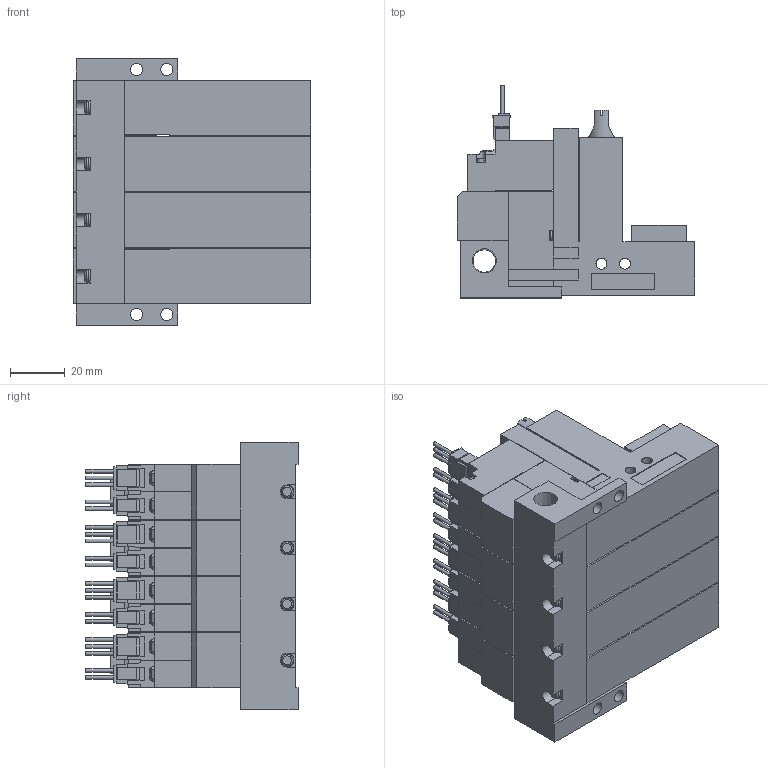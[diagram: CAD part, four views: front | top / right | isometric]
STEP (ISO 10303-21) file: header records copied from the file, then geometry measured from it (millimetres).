
FILE_DESCRIPTION(('STEP AP203'),'1');
FILE_NAME('ZL5WLR404.stp','2025-02-18T23:29:12',(' '),(' '),'Spatial InterOp 3D',' ',' ');
FILE_SCHEMA(('CONFIG_CONTROL_DESIGN'));
Length unit declared in the file: millimetre
Products named in the file (5): BMC22M※※※※ZL5WLR404; Solenoid valve W; Pressure sensor ZL; Unit L; Base MR40R
Assembly tree (13 placements, depth 2):
  BMC22M※※※※ZL5WLR404
    Solenoid valve W  x4
    Pressure sensor ZL  x4
    Unit L  x4
    Base MR40R
Bounding box: 86.6 x 77.45 x 97.5 mm (x, y, z)
Volume: 312448.7 mm3; surface area: 89486.4 mm2
Topology: 13 solids, 13 shells, 1329 faces, 3611 edges, 2384 vertices
Faces by surface type: plane 1142, cylinder 145, cone 30, torus 12
Full cylindrical faces by diameter (mm): 1.4 x20, 2.5 x4, 3 x16, 3.5 x16, 3.6 x4, 4 x8, 4.134 x4, 4.5 x4, 5.2 x4, 6 x4, 6.6 x4, 8.279 x1
Entity records: 12363 total; most frequent: CARTESIAN_POINT 2337, DIRECTION 1957, ORIENTED_EDGE 1946, EDGE_CURVE 973, LINE 799, VECTOR 799, VERTEX_POINT 679, AXIS2_PLACEMENT_3D 579
